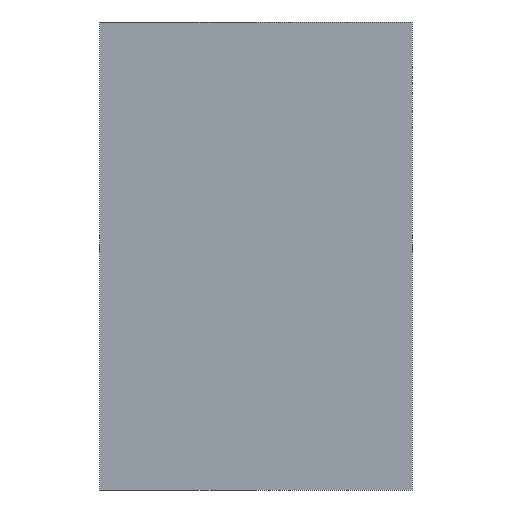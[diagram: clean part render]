
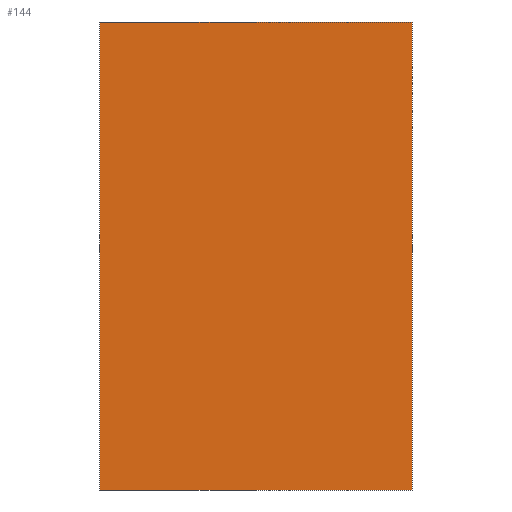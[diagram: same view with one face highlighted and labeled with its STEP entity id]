
A CAD part, left-side view. The second image highlights one B-rep face of the part: STEP entity #144.
In plain terms, the highlighted planar face has unit normal (-1, 0, 0).
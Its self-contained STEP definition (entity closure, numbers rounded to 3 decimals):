
#18=FACE_OUTER_BOUND('',#26,.T.);
#26=EDGE_LOOP('',(#100,#101,#102,#103));
#34=LINE('',#208,#52);
#35=LINE('',#210,#53);
#36=LINE('',#212,#54);
#37=LINE('',#213,#55);
#52=VECTOR('',#172,1000.);
#53=VECTOR('',#173,1000.);
#54=VECTOR('',#174,1000.);
#55=VECTOR('',#175,1000.);
#70=VERTEX_POINT('',#206);
#71=VERTEX_POINT('',#207);
#72=VERTEX_POINT('',#209);
#73=VERTEX_POINT('',#211);
#82=EDGE_CURVE('',#70,#71,#34,.T.);
#83=EDGE_CURVE('',#72,#71,#35,.T.);
#84=EDGE_CURVE('',#73,#72,#36,.T.);
#85=EDGE_CURVE('',#73,#70,#37,.T.);
#100=ORIENTED_EDGE('',*,*,#82,.T.);
#101=ORIENTED_EDGE('',*,*,#83,.F.);
#102=ORIENTED_EDGE('',*,*,#84,.F.);
#103=ORIENTED_EDGE('',*,*,#85,.T.);
#136=PLANE('',#160);
#144=ADVANCED_FACE('',(#18),#136,.F.);
#160=AXIS2_PLACEMENT_3D('',#205,#170,#171);
#170=DIRECTION('center_axis',(1.,0.,0.));
#171=DIRECTION('ref_axis',(0.,0.,-1.));
#172=DIRECTION('',(0.,0.,1.));
#173=DIRECTION('',(0.,-1.,0.));
#174=DIRECTION('',(0.,0.,1.));
#175=DIRECTION('',(0.,-1.,0.));
#205=CARTESIAN_POINT('Origin',(0.,2.,-3.));
#206=CARTESIAN_POINT('',(0.,0.,-3.));
#207=CARTESIAN_POINT('',(0.,0.,0.));
#208=CARTESIAN_POINT('',(0.,0.,-3.));
#209=CARTESIAN_POINT('',(0.,2.,0.));
#210=CARTESIAN_POINT('',(0.,2.,0.));
#211=CARTESIAN_POINT('',(0.,2.,-3.));
#212=CARTESIAN_POINT('',(0.,2.,-3.));
#213=CARTESIAN_POINT('',(0.,2.,-3.));
